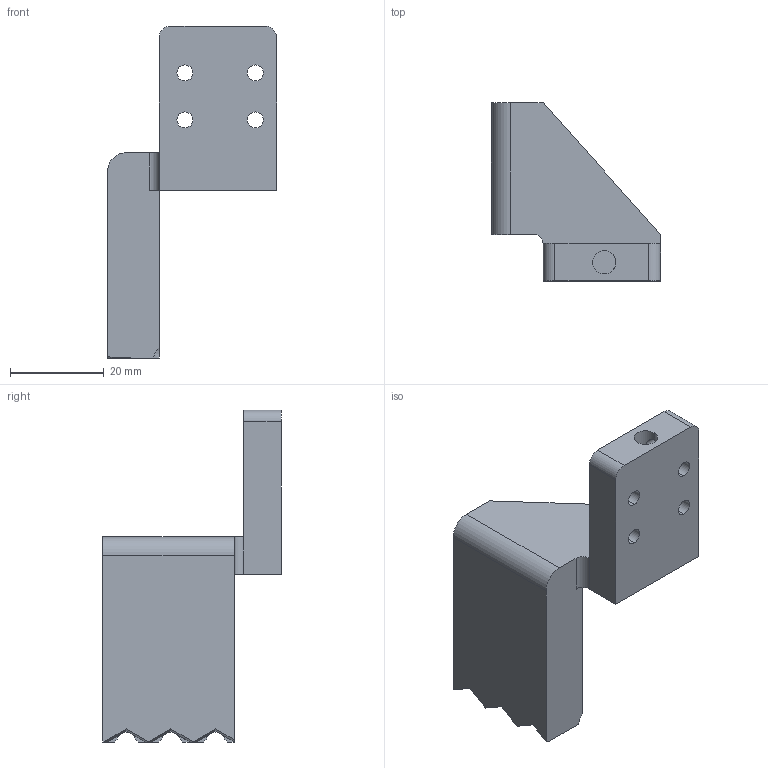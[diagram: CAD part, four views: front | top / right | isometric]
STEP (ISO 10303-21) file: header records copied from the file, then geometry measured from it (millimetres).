
FILE_DESCRIPTION (( 'STEP AP214' ), '1' );
FILE_NAME ('GZ21.13_V1对心调节块x.STEP', '2021-02-26T08:08:16', ( '微软中国' ), ( 'Microsoft' ), 'SwSTEP 2.0', 'SolidWorks 2017', '' );
FILE_SCHEMA (( 'AUTOMOTIVE_DESIGN' ));
Length unit declared in the file: millimetre
Products named in the file (1): GZ21.13_V1勤陑覃誹輸x
Bounding box: 36 x 38 x 70.7 mm (x, y, z)
Volume: 22308.3 mm3; surface area: 7917.9 mm2
Topology: 1 solids, 1 shells, 81 faces, 215 edges, 139 vertices
Faces by surface type: plane 48, cylinder 30, cone 3
Entity records: 2665 total; most frequent: CARTESIAN_POINT 535, DIRECTION 435, ORIENTED_EDGE 430, EDGE_CURVE 215, AXIS2_PLACEMENT_3D 149, VERTEX_POINT 139, VECTOR 137, LINE 137
